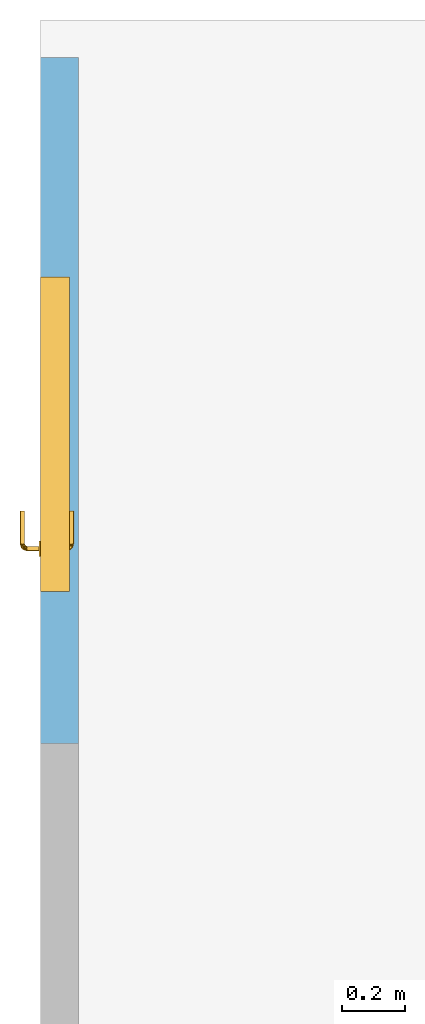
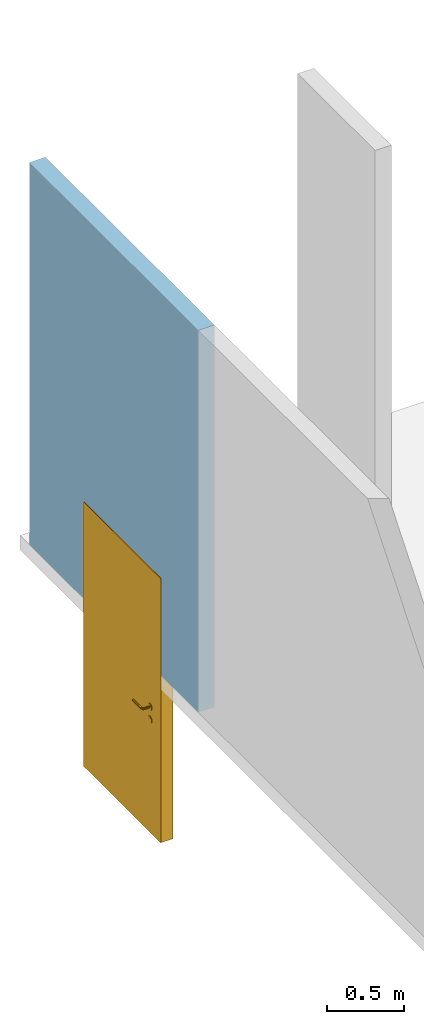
# One storey, part 2 of 2: 1 door, 1 opening, plus 1 element that does not belong to this part.
"""IFC2X3 building model written with IfcOpenShell, lengths in millimetres."""

from ifc_helpers import new_model, entity, si_unit, converted_unit, derived_unit, direction, frame, frame_2d, origin, origin_with_axes, origin_2d_with_axis, place, context, subcontext, project, spatial, polyline, rectangle, circle, outline, extrude, faceted_brep, source, transform, mapped, material, layer, layer_set, layer_usage, type_object, element, fill, save


model = new_model("IFC2X3")

# Units and contexts
model_context = context("Model", 3, precision=0.01, world=origin(), true_north=direction((6.12303176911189e-17, 1.0)))
plan_context = context("Plan", 3, precision=1e-05, world=origin_with_axes())
body_context = subcontext(model_context, "Body", "Model", "MODEL_VIEW")
ifc_project = project(units=[converted_unit("PLANEANGLEUNIT", "DEGREE", entity("IfcPositiveLengthMeasure", 0.0174532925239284), si_unit("PLANEANGLEUNIT", "RADIAN"), dimensions=[0, 0, 0, 0, 0, 0, 0]), si_unit("AREAUNIT", "SQUARE_METRE"), si_unit("LENGTHUNIT", "METRE", prefix="MILLI"), si_unit("MASSUNIT", "GRAM", prefix="KILO"), si_unit("POWERUNIT", "WATT"), si_unit("PRESSUREUNIT", "PASCAL"), si_unit("FORCEUNIT", "NEWTON", prefix="KILO"), si_unit("ELECTRICVOLTAGEUNIT", "VOLT"), si_unit("ELECTRICCURRENTUNIT", "AMPERE"), si_unit("THERMODYNAMICTEMPERATUREUNIT", "DEGREE_CELSIUS"), si_unit("TIMEUNIT", "SECOND"), si_unit("VOLUMEUNIT", "CUBIC_METRE"), derived_unit("LINEARVELOCITYUNIT", [(si_unit("LENGTHUNIT", "METRE"), 1), (si_unit("TIMEUNIT", "SECOND"), -1)]), derived_unit("VOLUMETRICFLOWRATEUNIT", [(si_unit("VOLUMEUNIT", "CUBIC_METRE"), 1), (si_unit("TIMEUNIT", "SECOND"), -1)]), derived_unit("THERMALTRANSMITTANCEUNIT", [(si_unit("POWERUNIT", "WATT"), 1), (si_unit("THERMODYNAMICTEMPERATUREUNIT", "KELVIN"), -1), (si_unit("AREAUNIT", "SQUARE_METRE"), -1)]), derived_unit("SOUNDPRESSUREUNIT", [(si_unit("PRESSUREUNIT", "PASCAL"), 1)])], contexts=[model_context, plan_context])

# Site, building, storey
site_placement = place(None, frame((2314154.5009392, 1029894.10887124, 0.0), z_axis=(0.0, 0.0, 1.0), x_axis=(1.0, 0.0, 0.0)))
site = spatial("IfcSite", under=ifc_project, at=site_placement, Name="Default", CompositionType="ELEMENT")
building_placement = place(site_placement, origin_with_axes())
building = spatial("IfcBuilding", under=site, at=building_placement, CompositionType="ELEMENT")
storey_placement = place(building_placement, frame((0.0, 0.0, 9320.0), z_axis=(0.0, 0.0, 1.0), x_axis=(1.0, 0.0, 0.0)))
storey = spatial("IfcBuildingStorey", under=building, at=storey_placement, Name="H01 Hovedetasje", CompositionType="ELEMENT", Elevation=9320.0)

# Wall, opening, door
ifc_material_1 = material(Name="Existing - Bridget key")
ifc_layer = layer(ifc_material_1, 120.0)
ifc_layer_set = layer_set([ifc_layer], Name="Basic Wall:V_Existing 120mm")
ifc_layer_usage = layer_usage(ifc_layer_set, "AXIS2", "NEGATIVE", 60.0)
wall_type = type_object("IfcWallType", Name="Basic Wall:V_Existing 120mm", PredefinedType="STANDARD", material=ifc_layer_set)
wall_placement = place(storey_placement, frame((301806.745429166, -33447.4514097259, 1330.0), z_axis=(0.0, 0.0, 1.0), x_axis=(0.0, -1.0, 0.0)))
wall = element("IfcWallStandardCase", 1, at=wall_placement, inside=storey, type_object=wall_type, material=ifc_layer_usage, Name="Basic Wall:V_Existing 120mm", ObjectType="Basic Wall:V_Existing 120mm", context=body_context, shape_type="SweptSolid", body=[
    extrude(rectangle(XDim=2180.0, YDim=120.000000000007, at=frame_2d((1090.0, -1.732658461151e-11), x_axis=(1.0, 0.0))), origin(), (0.0, 0.0, 1.0), 3010.0),
])
opening_placement = place(wall_placement, frame((1707.62895362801, 60.0, -1330.0), z_axis=(0.0, 0.0, 1.0), x_axis=(1.0, 0.0, 0.0)))
opening = element("IfcOpeningElement", 2, at=opening_placement, cuts=wall, Name="V_Generic Sgle Int:1000 x 2100mm:1", ObjectType="Opening", context=body_context, shape_type="SweptSolid", body=[
    extrude(rectangle(XDim=2100.00000000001, YDim=1020.0, at=frame_2d((1050.0, 510.000000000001), x_axis=(1.0, 0.0))), frame((0.0, 0.0, 0.0), z_axis=(0.0, -1.0, 0.0), x_axis=(0.0, 0.0, 1.0)), (0.0, 0.0, 1.0), 120.0),
])
ifc_material_2 = material(Name="N_Door - Handle")
door_style = type_object("IfcDoorStyle", Name="V_Generic Sgle Int:1000 x 2100mm", ConstructionType="NOTDEFINED", OperationType="SINGLE_SWING_RIGHT", ParameterTakesPrecedence=False, Sizeable=False, material=ifc_material_2)
shared_shape = source(origin(), body_context, "Body", "SolidModel", [
    extrude(circle(Radius=25.0, at=frame_2d((0.0, -1.35358391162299e-13), x_axis=(1.0, 0.0))), frame((147.0, 120.0, 900.0), z_axis=(0.0, 1.0, 0.0), x_axis=(-1.0, 0.0, 0.0)), (0.0, 0.0, 1.0), 4.99999999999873),
    extrude(circle(Radius=25.0, at=frame_2d((0.0, -1.35358391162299e-13), x_axis=(1.0, 0.0))), frame((147.0, 75.0, 900.0), z_axis=(0.0, 1.0, 0.0), x_axis=(-1.0, 0.0, 0.0)), (0.0, 0.0, 1.0), 4.99999999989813),
    extrude(circle(Radius=25.0, at=origin_2d_with_axis()), frame((147.0, 75.0, 1000.0), z_axis=(0.0, 1.0, 0.0), x_axis=(-1.0, 0.0, 0.0)), (0.0, 0.0, 1.0), 4.99999999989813),
    extrude(circle(Radius=25.0, at=origin_2d_with_axis()), frame((147.0, 120.0, 1000.0), z_axis=(0.0, 1.0, 0.0), x_axis=(-1.0, 0.0, 0.0)), (0.0, 0.0, 1.0), 4.99999999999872),
    extrude(outline(polyline([(-1029.5, -458.0), (-1029.5, -500.0), (1050.5, -500.0), (1050.5, 500.0), (-1029.5, 500.0), (-1029.5, 458.0), (1008.5, 458.0), (1008.5, -458.0), (-1029.5, -458.0)])), frame((510.0, 28.0, 1039.5), z_axis=(0.0, -1.0, 0.0), x_axis=(0.0, 0.0, 1.0)), (0.0, 0.0, -1.0), 91.9999999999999),
    extrude(rectangle(XDim=915.999999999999, YDim=92.0000000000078, at=origin_2d_with_axis()), frame((510.0, 74.0, 10.0)), (0.0, 0.0, 1.0), 20.0),
    extrude(rectangle(XDim=915.999999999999, YDim=40.0000000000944, at=frame_2d((0.0, 5.32907051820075e-15), x_axis=(1.0, 0.0))), frame((510.0, 100.0, 30.0)), (0.0, 0.0, 1.0), 2018.0),
    faceted_brep([(148.776872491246, 75.0, 992.462008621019), (146.835729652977, 75.0, 992.206452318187), (144.894586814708, 75.0, 992.462008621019), (143.085729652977, 75.0, 993.211261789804), (141.532428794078, 75.0, 994.403151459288), (140.340539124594, 75.0, 995.956452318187), (139.591285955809, 75.0, 997.765309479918), (139.335729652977, 75.0, 999.706452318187), (139.591285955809, 75.0, 1001.64759515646), (140.340539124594, 75.0, 1003.45645231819), (141.532428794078, 75.0, 1005.00975317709), (143.085729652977, 75.0, 1006.20164284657), (144.894586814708, 75.0, 1006.95089601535), (146.835729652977, 75.0, 1007.20645231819), (148.776872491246, 75.0, 1006.95089601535), (150.585729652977, 75.0, 1006.20164284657), (152.139030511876, 75.0, 1005.00975317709), (153.330920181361, 75.0, 1003.45645231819), (154.080173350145, 75.0, 1001.64759515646), (154.335729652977, 75.0, 999.706452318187), (154.080173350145, 75.0, 997.765309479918), (153.330920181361, 75.0, 995.956452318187), (152.139030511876, 75.0, 994.403151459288), (150.585729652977, 75.0, 993.211261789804), (139.591285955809, 37.0, 1001.64759515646), (139.335729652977, 37.0, 999.706452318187), (140.340539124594, 37.0, 1003.45645231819), (141.532428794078, 37.0, 1005.00975317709), (143.085729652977, 37.0, 1006.20164284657), (144.894586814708, 37.0, 1006.95089601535), (146.835729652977, 37.0, 1007.20645231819), (150.585729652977, 37.0, 1006.20164284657), (148.776872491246, 37.0, 1006.95089601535), (152.139030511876, 37.0, 1005.00975317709), (153.330920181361, 37.0, 1003.45645231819), (154.080173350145, 37.0, 1001.64759515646), (154.335729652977, 37.0, 999.706452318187), (154.080173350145, 37.0, 997.765309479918), (153.330920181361, 37.0, 995.956452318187), (152.139030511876, 37.0, 994.403151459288), (150.585729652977, 37.0, 993.211261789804), (148.776872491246, 37.0, 992.462008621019), (146.835729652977, 37.0, 992.206452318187), (143.085729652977, 37.0, 993.211261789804), (144.894586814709, 37.0, 992.462008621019), (141.532428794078, 37.0, 994.403151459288), (139.591285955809, 37.0, 997.765309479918), (140.340539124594, 37.0, 995.956452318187), (139.766854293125, 35.3910209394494, 999.706452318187), (144.376029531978, 30.7143739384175, 1006.31466321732), (141.060228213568, 30.5640837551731, 999.706452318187), (142.372166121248, 25.6678648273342, 999.706452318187), (146.520015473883, 21.5200154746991, 999.706452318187), (148.593940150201, 19.4460907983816, 999.706452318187), (147.91693354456, 24.1613468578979, 1006.11720687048), (144.446090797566, 23.5939401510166, 999.706452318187), (140.197978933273, 33.782041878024, 999.706452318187), (152.915895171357, 27.9158955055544, 1006.83944803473), (154.978679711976, 25.9837631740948, 1006.90624300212), (155.714373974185, 19.376029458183, 1006.31466318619), (151.78695437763, 20.176388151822, 1005.69389815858), (150.667864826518, 17.372166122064, 999.706452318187), (145.128688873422, 26.7049249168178, 1005.63006823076), (162.0, 15.3405391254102, 1003.45645231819), (160.39102092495, 14.7668542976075, 999.706452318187), (162.0, 14.5912859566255, 1001.64759515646), (158.782041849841, 15.1979789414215, 999.706452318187), (150.983762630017, 29.9786793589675, 1006.90624319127), (159.290271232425, 30.4581360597, 999.706452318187), (155.458136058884, 34.2902712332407, 999.706452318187), (156.580542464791, 31.5805424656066, 999.706452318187), (162.0, 19.8945868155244, 1006.95089601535), (162.0, 21.8357296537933, 1007.20645231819), (155.564083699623, 16.0602282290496, 999.706452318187), (162.0, 18.0857296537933, 1006.20164284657), (162.0, 27.1390305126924, 1005.00975317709), (162.0, 25.5857296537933, 1006.20164284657), (162.0, 23.7768724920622, 1006.95089601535), (162.0, 16.5324287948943, 1005.00975317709), (162.0, 14.3357296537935, 999.706452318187), (162.0, 29.3357296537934, 999.706452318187), (162.0, 29.0801733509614, 1001.64759515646), (162.0, 28.3309201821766, 1003.45645231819), (144.376029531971, 30.7143739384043, 993.098241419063), (154.978679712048, 25.9837631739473, 992.506661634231), (150.359409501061, 21.1550573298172, 993.704203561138), (148.702808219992, 24.1590520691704, 992.981799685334), (155.714373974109, 19.376029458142, 993.098241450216), (162.0, 28.3309201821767, 995.956452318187), (162.0, 14.5912859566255, 997.765309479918), (152.932116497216, 33.3675119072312, 994.497374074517), (148.702776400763, 29.053132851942, 992.213569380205), (162.0, 29.0801733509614, 997.765309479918), (162.0, 18.0857296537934, 993.211261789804), (153.650098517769, 30.1726084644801, 993.617178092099), (162.0, 27.1390305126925, 994.403151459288), (162.0, 25.5857296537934, 993.211261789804), (162.0, 23.7768724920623, 992.462008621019), (162.0, 15.3405391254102, 995.956452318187), (162.0, 21.8357296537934, 992.206452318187), (162.0, 19.8945868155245, 992.462008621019), (162.0, 16.5324287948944, 994.403151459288), (267.0, 25.5857296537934, 993.211261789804), (267.0, 27.1390305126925, 994.403151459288), (267.0, 28.3309201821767, 995.956452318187), (267.0, 29.0801733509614, 997.765309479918), (267.0, 29.3357296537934, 999.706452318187), (267.0, 29.0801733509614, 1001.64759515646), (267.0, 28.3309201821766, 1003.45645231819), (267.0, 27.1390305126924, 1005.00975317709), (267.0, 25.5857296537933, 1006.20164284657), (267.0, 23.7768724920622, 1006.95089601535), (267.0, 21.8357296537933, 1007.20645231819), (267.0, 19.8945868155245, 1006.95089601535), (267.0, 18.0857296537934, 1006.20164284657), (267.0, 16.5324287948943, 1005.00975317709), (267.0, 15.3405391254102, 1003.45645231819), (267.0, 14.5912859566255, 1001.64759515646), (267.0, 14.3357296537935, 999.706452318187), (267.0, 14.5912859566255, 997.765309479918), (267.0, 15.3405391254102, 995.956452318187), (267.0, 16.5324287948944, 994.403151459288), (267.0, 18.0857296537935, 993.211261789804), (267.0, 19.8945868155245, 992.462008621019), (267.0, 21.8357296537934, 992.206452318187), (267.0, 23.7768724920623, 992.462008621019)], [[[0, 1, 2, 3, 4, 5, 6, 7, 8, 9, 10, 11, 12, 13, 14, 15, 16, 17, 18, 19, 20, 21, 22, 23]], [[24, 8, 7, 25]], [[26, 9, 8, 24]], [[10, 27, 28, 11]], [[26, 27, 10, 9]], [[11, 28, 29, 12]], [[12, 29, 30, 13]], [[31, 15, 14, 32]], [[33, 16, 15, 31]], [[17, 34, 35, 18]], [[33, 34, 17, 16]], [[18, 35, 36, 19]], [[14, 13, 30, 32]], [[37, 20, 19, 36]], [[38, 21, 20, 37]], [[22, 39, 40, 23]], [[38, 39, 22, 21]], [[23, 40, 41, 0]], [[0, 41, 42, 1]], [[43, 3, 2, 44]], [[45, 4, 3, 43]], [[46, 6, 5, 47]], [[45, 47, 5, 4]], [[6, 46, 25, 7]], [[2, 1, 42, 44]], [[24, 48, 26]], [[49, 50, 51]], [[52, 53, 54, 55]], [[28, 27, 56]], [[26, 56, 27]], [[57, 54, 58]], [[28, 50, 29]], [[30, 29, 50]], [[59, 60, 61]], [[59, 58, 60]], [[55, 54, 62]], [[30, 50, 49]], [[30, 49, 32]], [[62, 49, 51]], [[62, 51, 55]], [[63, 64, 65]], [[49, 31, 32]], [[66, 64, 63]], [[35, 67, 36]], [[34, 33, 49]], [[54, 67, 62]], [[31, 49, 33]], [[57, 58, 68]], [[69, 57, 70]], [[53, 60, 54]], [[71, 72, 73]], [[73, 74, 71]], [[75, 59, 76]], [[77, 59, 72]], [[78, 74, 66]], [[54, 60, 58]], [[66, 74, 73]], [[61, 60, 53]], [[65, 64, 79]], [[59, 61, 73]], [[58, 80, 68]], [[28, 56, 50]], [[54, 57, 67]], [[49, 67, 34]], [[81, 80, 58]], [[66, 63, 78]], [[82, 81, 58]], [[34, 67, 35]], [[75, 82, 59]], [[24, 25, 48]], [[82, 58, 59]], [[48, 56, 26]], [[76, 59, 77]], [[59, 73, 72]], [[49, 62, 67]], [[57, 69, 67]], [[68, 70, 57]], [[69, 36, 67]], [[83, 50, 42]], [[84, 85, 86]], [[87, 84, 88]], [[83, 41, 40]], [[83, 51, 50]], [[89, 79, 64]], [[90, 39, 38]], [[90, 37, 36]], [[38, 37, 90]], [[51, 91, 55]], [[90, 36, 69]], [[83, 39, 90]], [[48, 25, 46]], [[43, 56, 45]], [[42, 50, 44]], [[51, 83, 91]], [[56, 43, 50]], [[43, 44, 50]], [[83, 42, 41]], [[87, 85, 84]], [[52, 85, 61, 53]], [[39, 83, 40]], [[83, 90, 91]], [[86, 52, 55]], [[92, 84, 80]], [[93, 66, 73]], [[84, 94, 70]], [[95, 87, 88]], [[56, 47, 45]], [[96, 97, 87]], [[64, 66, 98]], [[56, 48, 47]], [[96, 87, 95]], [[47, 48, 46]], [[99, 87, 97]], [[100, 73, 99]], [[88, 84, 92]], [[101, 66, 93]], [[73, 100, 93]], [[84, 70, 68, 80]], [[87, 99, 73]], [[98, 89, 64]], [[61, 85, 87]], [[61, 87, 73]], [[69, 94, 90]], [[98, 66, 101]], [[91, 94, 86]], [[90, 94, 91]], [[94, 84, 86]], [[55, 91, 86]], [[85, 52, 86]], [[94, 69, 70]], [[102, 103, 104, 105, 106, 107, 108, 109, 110, 111, 112, 113, 114, 115, 116, 117, 118, 119, 120, 121, 122, 123, 124, 125]], [[79, 118, 117, 65]], [[116, 63, 65, 117]], [[78, 115, 114, 74]], [[116, 115, 78, 63]], [[74, 114, 113, 71]], [[71, 113, 112, 72]], [[110, 109, 75, 76]], [[111, 110, 76, 77]], [[107, 106, 80, 81]], [[108, 107, 81, 82]], [[109, 108, 82, 75]], [[77, 72, 112, 111]], [[105, 104, 88, 92]], [[106, 105, 92, 80]], [[102, 125, 97, 96]], [[103, 102, 96, 95]], [[104, 103, 95, 88]], [[97, 125, 124, 99]], [[122, 121, 101, 93]], [[123, 122, 93, 100]], [[119, 118, 79, 89]], [[120, 119, 89, 98]], [[121, 120, 98, 101]], [[99, 124, 123, 100]]]),
    faceted_brep([(141.781119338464, 125.0, 994.715822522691), (143.334420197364, 125.0, 993.523932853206), (145.143277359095, 125.0, 992.774679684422), (147.084420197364, 125.0, 992.51912338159), (149.025563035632, 125.0, 992.774679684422), (150.834420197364, 125.0, 993.523932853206), (152.387721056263, 125.0, 994.715822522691), (153.579610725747, 125.0, 996.26912338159), (154.328863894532, 125.0, 998.077980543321), (154.584420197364, 125.0, 1000.01912338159), (154.328863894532, 125.0, 1001.96026621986), (153.579610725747, 125.0, 1003.76912338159), (152.387721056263, 125.0, 1005.32242424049), (150.834420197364, 125.0, 1006.51431390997), (149.025563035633, 125.0, 1007.26356707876), (147.084420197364, 125.0, 1007.51912338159), (145.143277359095, 125.0, 1007.26356707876), (143.334420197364, 125.0, 1006.51431390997), (141.781119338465, 125.0, 1005.32242424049), (140.58922966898, 125.0, 1003.76912338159), (139.839976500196, 125.0, 1001.96026621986), (139.584420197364, 125.0, 1000.01912338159), (139.839976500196, 125.0, 998.077980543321), (140.58922966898, 125.0, 996.26912338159), (154.328863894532, 163.0, 1001.96026621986), (154.584420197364, 163.0, 1000.01912338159), (153.579610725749, 163.0, 1003.76912338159), (152.387721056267, 163.0, 1005.32242424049), (150.834420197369, 163.0, 1006.51431390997), (149.02556303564, 163.0, 1007.26356707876), (147.084420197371, 163.0, 1007.51912338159), (143.334420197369, 163.0, 1006.51431390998), (145.143277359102, 163.0, 1007.26356707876), (141.781119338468, 163.0, 1005.32242424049), (140.589229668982, 163.0, 1003.76912338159), (139.839976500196, 163.0, 1001.96026621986), (139.584420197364, 163.0, 1000.01912338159), (139.839976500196, 163.0, 998.077980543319), (140.589229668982, 163.0, 996.269123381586), (141.781119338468, 163.0, 994.715822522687), (143.334420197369, 163.0, 993.523932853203), (145.143277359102, 163.0, 992.77467968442), (147.084420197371, 163.0, 992.51912338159), (150.834420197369, 163.0, 993.52393285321), (149.025563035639, 163.0, 992.774679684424), (152.387721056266, 163.0, 994.715822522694), (154.328863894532, 163.0, 998.077980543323), (153.579610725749, 163.0, 996.269123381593), (267.0, 179.856722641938, 992.774679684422), (267.0, 181.665579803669, 993.523932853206), (267.0, 183.218880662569, 994.715822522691), (267.0, 184.410770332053, 996.26912338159), (267.0, 185.160023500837, 998.077980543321), (267.0, 185.415579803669, 1000.01912338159), (267.0, 185.160023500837, 1001.96026621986), (267.0, 184.410770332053, 1003.76912338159), (267.0, 183.218880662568, 1005.32242424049), (267.0, 181.665579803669, 1006.51431390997), (267.0, 179.856722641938, 1007.26356707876), (267.0, 177.915579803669, 1007.51912338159), (267.0, 175.9744369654, 1007.26356707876), (267.0, 174.165579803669, 1006.51431390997), (267.0, 172.61227894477, 1005.32242424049), (267.0, 171.420389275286, 1003.76912338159), (267.0, 170.671136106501, 1001.96026621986), (267.0, 170.415579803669, 1000.01912338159), (267.0, 170.671136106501, 998.077980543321), (267.0, 171.420389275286, 996.26912338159), (267.0, 172.61227894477, 994.715822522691), (267.0, 174.165579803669, 993.523932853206), (267.0, 175.974436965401, 992.774679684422), (267.0, 177.915579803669, 992.51912338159), (144.598552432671, 169.218261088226, 1006.61846589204), (141.280637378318, 169.330368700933, 1000.01912338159), (155.051684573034, 173.815056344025, 1007.23043185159), (150.478026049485, 178.649113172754, 1006.00584122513), (148.825646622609, 175.718808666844, 1006.70596840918), (155.781738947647, 180.401447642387, 1006.61846586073), (162.0, 171.42038927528, 1003.76912338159), (142.587538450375, 174.207789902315, 1000.01912338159), (162.0, 185.16002350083, 1001.96026621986), (162.0, 185.415579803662, 1000.01912338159), (160.417407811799, 184.991525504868, 1000.01912338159), (153.156364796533, 166.595468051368, 1005.25590565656), (148.884931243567, 170.897170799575, 1007.50878931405), (144.63870636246, 176.258957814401, 1000.01912338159), (155.67040671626, 165.621803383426, 1000.01912338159), (140.008474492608, 164.58259217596, 1000.01912338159), (140.432528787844, 166.165184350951, 1000.01912338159), (159.378196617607, 169.329593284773, 1000.01912338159), (162.0, 170.415579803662, 1000.01912338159), (156.75639323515, 168.243606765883, 1000.01912338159), (146.689874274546, 178.310125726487, 1000.01912338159), (150.792210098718, 182.412461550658, 1000.01912338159), (148.741042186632, 180.361293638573, 1000.01912338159), (162.0, 181.665579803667, 1006.51431390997), (158.834815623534, 184.567471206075, 1000.01912338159), (155.669631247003, 183.719362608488, 1000.01912338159), (162.0, 170.671136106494, 1001.96026621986), (162.0, 172.612278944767, 1005.32242424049), (162.0, 174.165579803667, 1006.51431390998), (162.0, 175.9744369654, 1007.26356707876), (162.0, 184.410770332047, 1003.76912338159), (162.0, 177.915579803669, 1007.51912338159), (162.0, 179.856722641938, 1007.26356707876), (162.0, 183.218880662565, 1005.32242424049), (153.816421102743, 169.793775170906, 1006.17833928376), (144.598552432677, 169.218261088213, 993.41978087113), (148.025855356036, 175.701787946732, 993.655143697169), (152.938318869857, 172.061680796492, 992.819248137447), (155.051684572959, 173.815056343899, 992.807814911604), (155.781738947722, 180.401447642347, 993.419780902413), (151.918956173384, 179.601753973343, 994.024555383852), (145.338746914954, 173.181513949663, 994.103466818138), (162.0, 184.410770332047, 996.269123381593), (162.0, 185.16002350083, 998.077980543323), (151.184943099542, 169.948315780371, 992.807814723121), (162.0, 179.856722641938, 992.774679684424), (162.0, 177.915579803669, 992.51912338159), (162.0, 181.665579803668, 993.52393285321), (162.0, 172.612278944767, 994.715822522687), (162.0, 174.165579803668, 993.523932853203), (162.0, 175.9744369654, 992.77467968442), (162.0, 183.218880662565, 994.715822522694), (162.0, 170.671136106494, 998.077980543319), (162.0, 171.42038927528, 996.269123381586)], [[[0, 1, 2, 3, 4, 5, 6, 7, 8, 9, 10, 11, 12, 13, 14, 15, 16, 17, 18, 19, 20, 21, 22, 23]], [[24, 10, 9, 25]], [[26, 11, 10, 24]], [[12, 27, 28, 13]], [[26, 27, 12, 11]], [[13, 28, 29, 14]], [[14, 29, 30, 15]], [[31, 17, 16, 32]], [[33, 18, 17, 31]], [[19, 34, 35, 20]], [[33, 34, 19, 18]], [[20, 35, 36, 21]], [[16, 15, 30, 32]], [[37, 22, 21, 36]], [[38, 23, 22, 37]], [[0, 39, 40, 1]], [[38, 39, 0, 23]], [[1, 40, 41, 2]], [[2, 41, 42, 3]], [[43, 5, 4, 44]], [[45, 6, 5, 43]], [[46, 8, 7, 47]], [[45, 47, 7, 6]], [[8, 46, 25, 9]], [[4, 3, 42, 44]], [[48, 49, 50, 51, 52, 53, 54, 55, 56, 57, 58, 59, 60, 61, 62, 63, 64, 65, 66, 67, 68, 69, 70, 71]], [[72, 73, 30]], [[74, 75, 76]], [[77, 74, 78]], [[72, 29, 28]], [[72, 79, 73]], [[80, 81, 82]], [[83, 27, 26]], [[83, 24, 25]], [[26, 24, 83]], [[79, 84, 85]], [[83, 25, 86]], [[72, 27, 83]], [[87, 36, 35]], [[31, 88, 33]], [[30, 73, 32]], [[79, 72, 84]], [[88, 31, 73]], [[31, 32, 73]], [[72, 30, 29]], [[89, 90, 74, 91]], [[92, 75, 93, 94]], [[27, 72, 28]], [[72, 83, 84]], [[76, 92, 85]], [[95, 96, 97]], [[98, 74, 90]], [[99, 77, 78]], [[88, 34, 33]], [[100, 101, 77]], [[82, 96, 102]], [[88, 87, 34]], [[100, 77, 99]], [[34, 87, 35]], [[103, 77, 101]], [[104, 97, 103]], [[78, 74, 98]], [[105, 96, 95]], [[97, 104, 95]], [[91, 74, 106]], [[77, 103, 97]], [[102, 80, 82]], [[93, 75, 77]], [[93, 77, 97]], [[86, 106, 83]], [[77, 75, 74]], [[102, 96, 105]], [[84, 106, 76]], [[83, 106, 84]], [[106, 74, 76]], [[85, 84, 76]], [[75, 92, 76]], [[106, 86, 91]], [[37, 87, 38]], [[107, 73, 79]], [[92, 94, 108, 85]], [[40, 39, 88]], [[38, 88, 39]], [[109, 108, 110]], [[40, 73, 41]], [[42, 41, 73]], [[111, 112, 93]], [[111, 110, 112]], [[85, 108, 113]], [[42, 73, 107]], [[42, 107, 44]], [[113, 107, 79]], [[113, 79, 85]], [[114, 82, 115]], [[107, 43, 44]], [[96, 82, 114]], [[109, 86, 116]], [[47, 45, 107]], [[108, 116, 113]], [[43, 107, 45]], [[109, 110, 89]], [[25, 46, 116]], [[94, 112, 108]], [[117, 118, 97]], [[97, 119, 117]], [[120, 111, 121]], [[122, 111, 118]], [[123, 119, 96]], [[108, 112, 110]], [[96, 119, 97]], [[93, 112, 94]], [[115, 82, 81]], [[111, 93, 97]], [[86, 25, 116]], [[40, 88, 73]], [[108, 109, 116]], [[107, 116, 47]], [[124, 90, 110]], [[96, 114, 123]], [[125, 124, 110]], [[47, 116, 46]], [[120, 125, 111]], [[37, 36, 87]], [[125, 110, 111]], [[87, 88, 38]], [[121, 111, 122]], [[111, 97, 118]], [[107, 113, 116]], [[86, 109, 91]], [[89, 91, 109]], [[110, 90, 89]], [[90, 65, 64, 98]], [[63, 78, 98, 64]], [[99, 62, 61, 100]], [[63, 62, 99, 78]], [[100, 61, 60, 101]], [[101, 60, 59, 103]], [[57, 56, 105, 95]], [[58, 57, 95, 104]], [[54, 53, 81, 80]], [[55, 54, 80, 102]], [[56, 55, 102, 105]], [[104, 103, 59, 58]], [[52, 51, 114, 115]], [[53, 52, 115, 81]], [[49, 48, 117, 119]], [[50, 49, 119, 123]], [[51, 50, 123, 114]], [[117, 48, 71, 118]], [[69, 68, 120, 121]], [[70, 69, 121, 122]], [[66, 65, 90, 124]], [[67, 66, 124, 125]], [[68, 67, 125, 120]], [[118, 71, 70, 122]]]),
])
door_placement = place(opening_placement, frame((0.0, 0.0, 0.0), z_axis=(0.0, 0.0, 1.0), x_axis=(-1.0, 0.0, 0.0)))
door = element("IfcDoor", 3, at=door_placement, inside=storey, type_object=door_style, material=ifc_material_2, Name="V_Generic Sgle Int:1000 x 2100mm", ObjectType="V_Generic Sgle Int:1000 x 2100mm", OverallHeight=2100.00000000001, OverallWidth=1020.0, context=body_context, shape_type="MappedRepresentation", body=[
    mapped(shared_shape, transform((0.0, 0.0, 0.0), scale=1.0)),
])
fill(opening, door)

save(model, "model.ifc")
